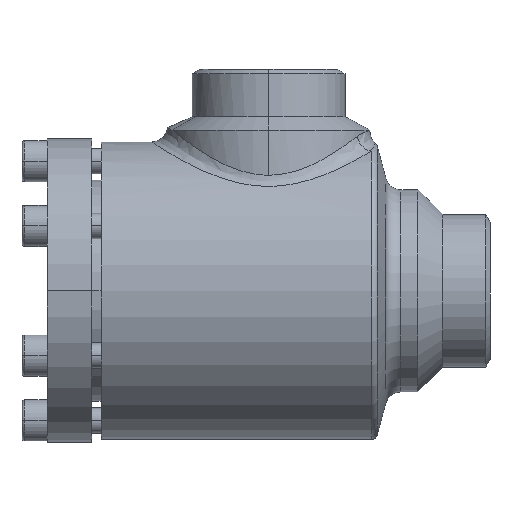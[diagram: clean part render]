
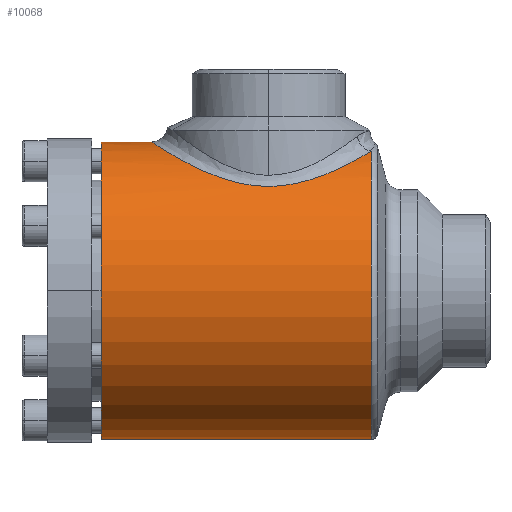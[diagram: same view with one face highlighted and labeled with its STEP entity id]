
A CAD part, left-side view. The second image highlights one B-rep face of the part: STEP entity #10068.
In plain terms, the highlighted cylindrical face has radius 47 mm (diameter 94 mm), a partial arc.
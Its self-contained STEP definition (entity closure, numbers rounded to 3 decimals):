
#106 = B_SPLINE_CURVE_WITH_KNOTS ( 'NONE', 3,
 ( #107, #108, #109, #110, #111, #112, #113, #114, #115, #116, #117, #118, #119, #120, #121, #122, #123, #124, #125, #126, #127, #128, #129, #130, #131, #132, #133, #134, #136, #137, #138, #139, #140, #141, #142, #143, #144, #145, #146, #147, #148, #149, #150, #151, #154, #155, #156, #157, #158, #159, #160, #161, #162, #163, #164, #165, #166, #167, #168, #169, #171, #172 ),
 .UNSPECIFIED., .F., .F.,
 ( 4, 2, 2, 2, 2, 2, 2, 2, 2, 2, 2, 2, 2, 2, 2, 2, 2, 2, 2, 2, 2, 2, 2, 2, 2, 2, 2, 2, 2, 2, 4 ),
 ( 0.017, 0.023, 0.026, 0.029, 0.035, 0.039, 0.04, 0.042, 0.048, 0.051, 0.052, 0.054, 0.06, 0.063, 0.066, 0.069, 0.072, 0.078, 0.081, 0.083, 0.084, 0.09, 0.093, 0.095, 0.096, 0.103, 0.106, 0.107, 0.109, 0.112, 0.115 ),
 .UNSPECIFIED. ) ;
#107 = CARTESIAN_POINT ( 'NONE',  ( -16.073, -85.446, 44.166 ) ) ;
#108 = CARTESIAN_POINT ( 'NONE',  ( -17.749, -84.43, 43.556 ) ) ;
#109 = CARTESIAN_POINT ( 'NONE',  ( -19.293, -83.29, 42.887 ) ) ;
#110 = CARTESIAN_POINT ( 'NONE',  ( -21.444, -81.41, 41.831 ) ) ;
#111 = CARTESIAN_POINT ( 'NONE',  ( -22.133, -80.755, 41.469 ) ) ;
#112 = CARTESIAN_POINT ( 'NONE',  ( -23.459, -79.389, 40.734 ) ) ;
#113 = CARTESIAN_POINT ( 'NONE',  ( -24.096, -78.676, 40.359 ) ) ;
#114 = CARTESIAN_POINT ( 'NONE',  ( -25.907, -76.48, 39.24 ) ) ;
#115 = CARTESIAN_POINT ( 'NONE',  ( -26.989, -74.936, 38.497 ) ) ;
#116 = CARTESIAN_POINT ( 'NONE',  ( -28.44, -72.491, 37.424 ) ) ;
#117 = CARTESIAN_POINT ( 'NONE',  ( -28.894, -71.655, 37.073 ) ) ;
#118 = CARTESIAN_POINT ( 'NONE',  ( -29.533, -70.366, 36.563 ) ) ;
#119 = CARTESIAN_POINT ( 'NONE',  ( -29.739, -69.93, 36.396 ) ) ;
#120 = CARTESIAN_POINT ( 'NONE',  ( -30.137, -69.047, 36.067 ) ) ;
#121 = CARTESIAN_POINT ( 'NONE',  ( -30.328, -68.599, 35.906 ) ) ;
#122 = CARTESIAN_POINT ( 'NONE',  ( -31.243, -66.344, 35.126 ) ) ;
#123 = CARTESIAN_POINT ( 'NONE',  ( -31.842, -64.482, 34.576 ) ) ;
#124 = CARTESIAN_POINT ( 'NONE',  ( -32.541, -61.591, 33.914 ) ) ;
#125 = CARTESIAN_POINT ( 'NONE',  ( -32.74, -60.61, 33.721 ) ) ;
#126 = CARTESIAN_POINT ( 'NONE',  ( -32.986, -59.111, 33.48 ) ) ;
#127 = CARTESIAN_POINT ( 'NONE',  ( -33.059, -58.608, 33.408 ) ) ;
#128 = CARTESIAN_POINT ( 'NONE',  ( -33.186, -57.603, 33.282 ) ) ;
#129 = CARTESIAN_POINT ( 'NONE',  ( -33.239, -57.1, 33.229 ) ) ;
#130 = CARTESIAN_POINT ( 'NONE',  ( -33.462, -54.583, 33.006 ) ) ;
#131 = CARTESIAN_POINT ( 'NONE',  ( -33.49, -52.562, 32.976 ) ) ;
#132 = CARTESIAN_POINT ( 'NONE',  ( -33.307, -49.52, 33.161 ) ) ;
#133 = CARTESIAN_POINT ( 'NONE',  ( -33.207, -48.498, 33.262 ) ) ;
#134 = CARTESIAN_POINT ( 'NONE',  ( -32.933, -46.49, 33.532 ) ) ;
#136 = CARTESIAN_POINT ( 'NONE',  ( -32.761, -45.501, 33.702 ) ) ;
#137 = CARTESIAN_POINT ( 'NONE',  ( -32.346, -43.55, 34.1 ) ) ;
#138 = CARTESIAN_POINT ( 'NONE',  ( -32.103, -42.587, 34.33 ) ) ;
#139 = CARTESIAN_POINT ( 'NONE',  ( -31.549, -40.688, 34.839 ) ) ;
#140 = CARTESIAN_POINT ( 'NONE',  ( -31.237, -39.749, 35.121 ) ) ;
#141 = CARTESIAN_POINT ( 'NONE',  ( -30.211, -37.009, 36.016 ) ) ;
#142 = CARTESIAN_POINT ( 'NONE',  ( -29.406, -35.272, 36.683 ) ) ;
#143 = CARTESIAN_POINT ( 'NONE',  ( -28.021, -32.781, 37.738 ) ) ;
#144 = CARTESIAN_POINT ( 'NONE',  ( -27.529, -31.97, 38.099 ) ) ;
#145 = CARTESIAN_POINT ( 'NONE',  ( -26.744, -30.781, 38.65 ) ) ;
#146 = CARTESIAN_POINT ( 'NONE',  ( -26.475, -30.389, 38.835 ) ) ;
#147 = CARTESIAN_POINT ( 'NONE',  ( -25.92, -29.615, 39.208 ) ) ;
#148 = CARTESIAN_POINT ( 'NONE',  ( -25.634, -29.233, 39.396 ) ) ;
#149 = CARTESIAN_POINT ( 'NONE',  ( -24.175, -27.357, 40.33 ) ) ;
#150 = CARTESIAN_POINT ( 'NONE',  ( -22.902, -25.964, 41.072 ) ) ;
#151 = CARTESIAN_POINT ( 'NONE',  ( -20.822, -24.029, 42.143 ) ) ;
#154 = CARTESIAN_POINT ( 'NONE',  ( -20.099, -23.411, 42.494 ) ) ;
#155 = CARTESIAN_POINT ( 'NONE',  ( -18.969, -22.523, 43.004 ) ) ;
#156 = CARTESIAN_POINT ( 'NONE',  ( -18.584, -22.235, 43.172 ) ) ;
#157 = CARTESIAN_POINT ( 'NONE',  ( -17.798, -21.671, 43.502 ) ) ;
#158 = CARTESIAN_POINT ( 'NONE',  ( -17.396, -21.396, 43.664 ) ) ;
#159 = CARTESIAN_POINT ( 'NONE',  ( -15.356, -20.064, 44.455 ) ) ;
#160 = CARTESIAN_POINT ( 'NONE',  ( -13.635, -19.147, 45.018 ) ) ;
#161 = CARTESIAN_POINT ( 'NONE',  ( -10.906, -18.006, 45.727 ) ) ;
#162 = CARTESIAN_POINT ( 'NONE',  ( -9.972, -17.666, 45.94 ) ) ;
#163 = CARTESIAN_POINT ( 'NONE',  ( -8.53, -17.219, 46.222 ) ) ;
#164 = CARTESIAN_POINT ( 'NONE',  ( -8.041, -17.081, 46.31 ) ) ;
#165 = CARTESIAN_POINT ( 'NONE',  ( -7.058, -16.829, 46.47 ) ) ;
#166 = CARTESIAN_POINT ( 'NONE',  ( -6.563, -16.715, 46.542 ) ) ;
#167 = CARTESIAN_POINT ( 'NONE',  ( -5.066, -16.41, 46.737 ) ) ;
#168 = CARTESIAN_POINT ( 'NONE',  ( -4.049, -16.255, 46.836 ) ) ;
#169 = CARTESIAN_POINT ( 'NONE',  ( -2.024, -16.051, 46.967 ) ) ;
#171 = CARTESIAN_POINT ( 'NONE',  ( -1.011, -16., 47. ) ) ;
#172 = CARTESIAN_POINT ( 'NONE',  ( 0., -16., 47. ) ) ;
#381 = CARTESIAN_POINT ( 'NONE',  ( -16.073, -85.446, 44.166 ) ) ;
#430 = CARTESIAN_POINT ( 'NONE',  ( 0., 0., -47. ) ) ;
#500 = CARTESIAN_POINT ( 'NONE',  ( 0., -85.446, -47. ) ) ;
#592 = LINE ( 'NONE', #593, #594 ) ;
#593 = CARTESIAN_POINT ( 'NONE',  ( 0., -91., -47. ) ) ;
#594 = VECTOR ( 'NONE', #597, 1000. ) ;
#597 = DIRECTION ( 'NONE',  ( 0., 1., 0. ) ) ;
#1735 = ORIENTED_EDGE ( 'NONE', *, *, #10897, .T. ) ;
#5751 = VERTEX_POINT ( 'NONE', #500 ) ;
#6177 = ORIENTED_EDGE ( 'NONE', *, *, #12072, .T. ) ;
#6970 = VERTEX_POINT ( 'NONE', #9482 ) ;
#8705 = CIRCLE ( 'NONE', #8706, 47. ) ;
#8706 = AXIS2_PLACEMENT_3D ( 'NONE', #8707, #8708, #8709 ) ;
#8707 = CARTESIAN_POINT ( 'NONE',  ( 0., -85.446, 0. ) ) ;
#8708 = DIRECTION ( 'NONE',  ( 0., 1., 0. ) ) ;
#8709 = DIRECTION ( 'NONE',  ( 0., 0., -1. ) ) ;
#8942 = EDGE_CURVE ( 'NONE', #10105, #6970, #10272, .T. ) ;
#9062 = ORIENTED_EDGE ( 'NONE', *, *, #8942, .F. ) ;
#9423 = CARTESIAN_POINT ( 'NONE',  ( 0., -16., 47. ) ) ;
#9482 = CARTESIAN_POINT ( 'NONE',  ( 0., 0., 47. ) ) ;
#9502 = LINE ( 'NONE', #9503, #9504 ) ;
#9503 = CARTESIAN_POINT ( 'NONE',  ( 0., -91., 47. ) ) ;
#9504 = VECTOR ( 'NONE', #9505, 1000. ) ;
#9505 = DIRECTION ( 'NONE',  ( 0., 1., 0. ) ) ;
#9872 = VERTEX_POINT ( 'NONE', #381 ) ;
#10054 = EDGE_LOOP ( 'NONE', ( #10526, #6177, #10062, #1735, #9062 ) ) ;
#10062 = ORIENTED_EDGE ( 'NONE', *, *, #11506, .T. ) ;
#10068 = ADVANCED_FACE ( 'NONE', ( #10502 ), #10503, .T. ) ;
#10105 = VERTEX_POINT ( 'NONE', #430 ) ;
#10113 = EDGE_CURVE ( 'NONE', #5751, #10105, #592, .T. ) ;
#10272 = CIRCLE ( 'NONE', #10273, 47. ) ;
#10273 = AXIS2_PLACEMENT_3D ( 'NONE', #10274, #10275, #10276 ) ;
#10274 = CARTESIAN_POINT ( 'NONE',  ( 0., 0., 0. ) ) ;
#10275 = DIRECTION ( 'NONE',  ( 0., 1., 0. ) ) ;
#10276 = DIRECTION ( 'NONE',  ( 0., 0., 1. ) ) ;
#10502 = FACE_OUTER_BOUND ( 'NONE', #10054, .T. ) ;
#10503 = CYLINDRICAL_SURFACE ( 'NONE', #10504, 47. ) ;
#10504 = AXIS2_PLACEMENT_3D ( 'NONE', #10505, #10506, #10507 ) ;
#10505 = CARTESIAN_POINT ( 'NONE',  ( 0., -91., 0. ) ) ;
#10506 = DIRECTION ( 'NONE',  ( 0., 1., 0. ) ) ;
#10507 = DIRECTION ( 'NONE',  ( 0., 0., 1. ) ) ;
#10526 = ORIENTED_EDGE ( 'NONE', *, *, #10113, .F. ) ;
#10759 = VERTEX_POINT ( 'NONE', #9423 ) ;
#10897 = EDGE_CURVE ( 'NONE', #10759, #6970, #9502, .T. ) ;
#11506 = EDGE_CURVE ( 'NONE', #9872, #10759, #106, .T. ) ;
#12072 = EDGE_CURVE ( 'NONE', #5751, #9872, #8705, .T. ) ;
